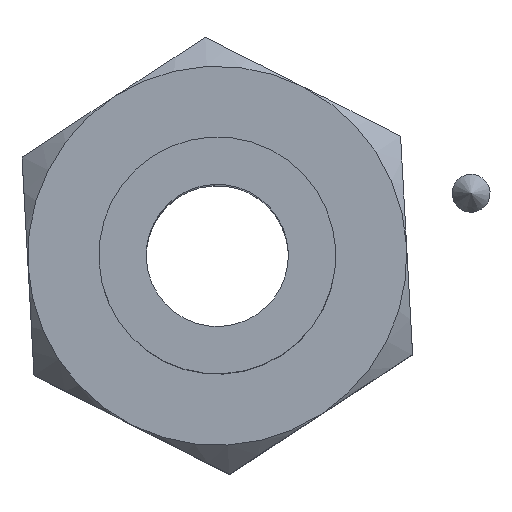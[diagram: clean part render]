
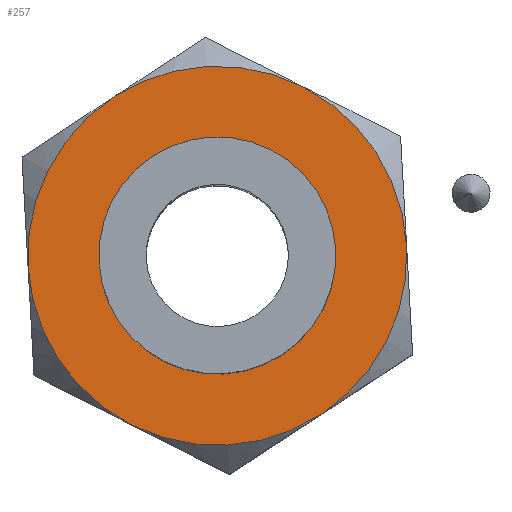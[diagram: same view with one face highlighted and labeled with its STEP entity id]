
A CAD part, top view. The second image highlights one B-rep face of the part: STEP entity #257.
In plain terms, the highlighted planar face has unit normal (0, 0, 1) as drawn and (0, 0, -1) by its records, which use the part's own axes.
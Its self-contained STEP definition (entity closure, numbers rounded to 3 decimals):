
#257=ADVANCED_FACE('',(#475,#476),#477,.T.);
#475=FACE_OUTER_BOUND('',#681,.T.);
#476=FACE_BOUND('',#682,.T.);
#477=PLANE('',#683);
#681=EDGE_LOOP('',(#1053,#1054,#1055,#1056,#1057,#1058));
#682=EDGE_LOOP('',(#1059));
#683=AXIS2_PLACEMENT_3D('',#1060,#1061,#1062);
#1053=ORIENTED_EDGE('',*,*,#1273,.F.);
#1054=ORIENTED_EDGE('',*,*,#1264,.F.);
#1055=ORIENTED_EDGE('',*,*,#1238,.F.);
#1056=ORIENTED_EDGE('',*,*,#1275,.F.);
#1057=ORIENTED_EDGE('',*,*,#1244,.F.);
#1058=ORIENTED_EDGE('',*,*,#1271,.F.);
#1059=ORIENTED_EDGE('',*,*,#1276,.F.);
#1060=CARTESIAN_POINT('',(-2.5,0.0,1.327));
#1061=DIRECTION('',(0.0,0.0,-1.0));
#1062=DIRECTION('',(0.0,-1.0,0.0));
#1238=EDGE_CURVE('',#1426,#1423,#1428,.T.);
#1244=EDGE_CURVE('',#1436,#1438,#1439,.T.);
#1264=EDGE_CURVE('',#1423,#1461,#1470,.T.);
#1271=EDGE_CURVE('',#1451,#1436,#1478,.T.);
#1273=EDGE_CURVE('',#1461,#1451,#1480,.T.);
#1275=EDGE_CURVE('',#1438,#1426,#1482,.T.);
#1276=EDGE_CURVE('',#1483,#1483,#1484,.T.);
#1423=VERTEX_POINT('',#1661);
#1426=VERTEX_POINT('',#1673);
#1428=CIRCLE('',#1686,4.0);
#1436=VERTEX_POINT('',#1694);
#1438=VERTEX_POINT('',#1707);
#1439=CIRCLE('',#1708,4.0);
#1451=VERTEX_POINT('',#1743);
#1461=VERTEX_POINT('',#1776);
#1470=CIRCLE('',#1818,4.0);
#1478=CIRCLE('',#1846,4.0);
#1480=CIRCLE('',#1848,4.0);
#1482=CIRCLE('',#1850,4.0);
#1483=VERTEX_POINT('',#1851);
#1484=CIRCLE('',#1852,2.5);
#1661=CARTESIAN_POINT('',(3.464,2.0,1.327));
#1673=CARTESIAN_POINT('',(3.464,-2.0,1.327));
#1686=AXIS2_PLACEMENT_3D('',#2009,#2010,#2011);
#1694=CARTESIAN_POINT('',(-3.464,-2.0,1.327));
#1707=CARTESIAN_POINT('',(0.,-4.0,1.327));
#1708=AXIS2_PLACEMENT_3D('',#2018,#2019,#2020);
#1743=CARTESIAN_POINT('',(-3.464,2.0,1.327));
#1776=CARTESIAN_POINT('',(0.0,4.0,1.327));
#1818=AXIS2_PLACEMENT_3D('',#2029,#2030,#2031);
#1846=AXIS2_PLACEMENT_3D('',#2034,#2035,#2036);
#1848=AXIS2_PLACEMENT_3D('',#2037,#2038,#2039);
#1850=AXIS2_PLACEMENT_3D('',#2040,#2041,#2042);
#1851=CARTESIAN_POINT('',(-2.5,0.0,1.327));
#1852=AXIS2_PLACEMENT_3D('',#2043,#2044,#2045);
#2009=CARTESIAN_POINT('',(0.0,0.0,1.327));
#2010=DIRECTION('',(0.0,0.0,1.0));
#2011=DIRECTION('',(1.0,0.0,0.0));
#2018=CARTESIAN_POINT('',(0.0,0.0,1.327));
#2019=DIRECTION('',(0.0,0.0,1.0));
#2020=DIRECTION('',(1.0,0.0,0.0));
#2029=CARTESIAN_POINT('',(0.0,0.0,1.327));
#2030=DIRECTION('',(0.0,0.0,1.0));
#2031=DIRECTION('',(1.0,0.0,0.0));
#2034=CARTESIAN_POINT('',(0.0,0.0,1.327));
#2035=DIRECTION('',(0.0,0.0,1.0));
#2036=DIRECTION('',(1.0,0.0,0.0));
#2037=CARTESIAN_POINT('',(0.0,0.0,1.327));
#2038=DIRECTION('',(0.0,0.0,1.0));
#2039=DIRECTION('',(1.0,0.0,0.0));
#2040=CARTESIAN_POINT('',(0.0,0.0,1.327));
#2041=DIRECTION('',(0.0,0.0,1.0));
#2042=DIRECTION('',(1.0,0.0,0.0));
#2043=CARTESIAN_POINT('',(0.0,0.0,1.327));
#2044=DIRECTION('',(0.0,0.0,-1.0));
#2045=DIRECTION('',(-1.0,0.0,0.0));
